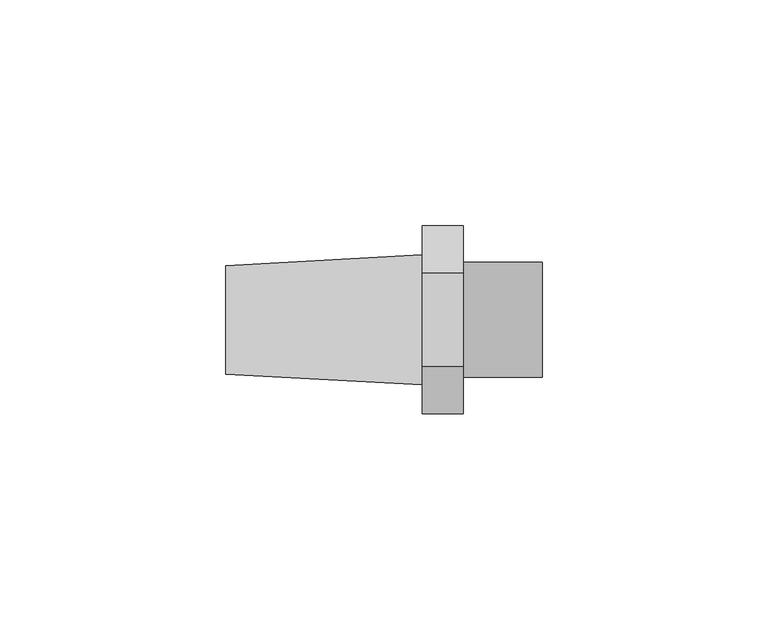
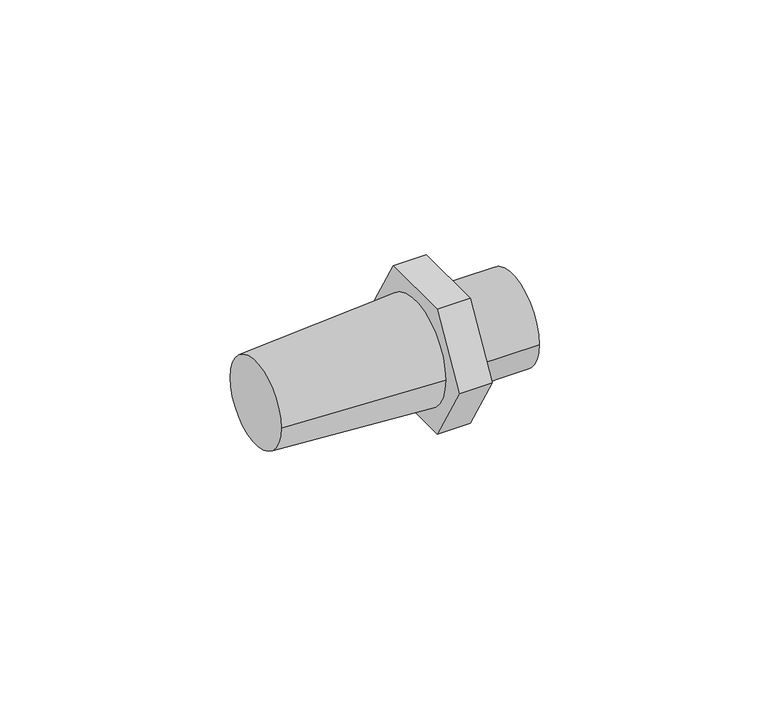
"""IFC4 building model written with IfcOpenShell, lengths in millimetres: pipe fitting geometry, 01011013 : Douilles coniques."""

from ifc_helpers import new_model, si_unit, frame, origin, place, context, project, spatial, polyline, circle_curve, source, transform, mapped, element, save
from ifc_brep_helpers import plane_surface, cylinder_surface, revolved_surface, advanced_brep


def pipe_fitting_19ab0d6a(model_context):
    return source(origin(), model_context, "Body", "AdvancedBrep", [
        advanced_brep(
        [(-35.0, 12.0, 0.0), (-35.0, -12.0, 0.0), (8.5, 14.4, 0.0), (8.5, -14.4, 0.0)],
        [
            (0, 1, circle_curve(frame((-35.0, 0.0, 0.0), z_axis=(-1.0, 0.0, 0.0), x_axis=(0.0, 1.0, 0.0)), 12.0)),
            (1, 0, circle_curve(frame((-35.0, 0.0, 0.0), z_axis=(-1.0, 0.0, 0.0), x_axis=(0.0, -1.0, 0.0)), 12.0)),
            (2, 3, circle_curve(frame((8.5, 0.0, 0.0), z_axis=(1.0, 0.0, 0.0), x_axis=(0.0, -1.0, 0.0)), 14.4)),
            (3, 2, circle_curve(frame((8.5, 0.0, 0.0), z_axis=(1.0, 0.0, 0.0), x_axis=(0.0, 1.0, 0.0)), 14.4)),
            (3, 1),
            (0, 2),
        ],
        [
            plane_surface(frame((-35.0, 0.0, 0.0), z_axis=(-1.0, 0.0, 0.0), x_axis=(0.0, 0.0, -1.0))),
            plane_surface(frame((8.5, 0.0, 0.0), z_axis=(1.0, 0.0, 0.0), x_axis=(0.0, 0.0, -1.0))),
            revolved_surface(polyline([(-35.0, 12.0, 0.0), (8.5, 14.4, 0.0)]), (-252.5, 0.0, 0.0), (1.0, 0.0, 0.0)),
            revolved_surface(polyline([(-35.0, -12.0, 0.0), (8.5, -14.4, 0.0)]), (-252.5, 0.0, 0.0), (1.0, 0.0, 0.0)),
        ],
        [
            (0, [[1, 2]]),
            (1, [[3, 4]]),
            (2, [[-4, 5, -1, 6]]),
            (3, [[-3, -6, -2, -5]]),
        ],
    ),
        advanced_brep(
        [(17.5, -10.3923048, 18.0), (17.5, -20.7846097, 0.0), (17.5, -10.3923048, -18.0), (17.5, 10.3923048, -18.0), (17.5, 20.7846097, 0.0), (17.5, 10.3923048, 18.0), (17.5, -12.7, 0.0), (17.5, 12.7, 0.0), (8.5, -10.3923048, 18.0), (8.5, 10.3923048, 18.0), (8.5, 20.7846097, 0.0), (8.5, 10.3923048, -18.0), (8.5, -10.3923048, -18.0), (8.5, -20.7846097, 0.0), (35.0, -12.7, 0.0), (35.0, 12.7, 0.0)],
        [
            (0, 1),
            (1, 2),
            (2, 3),
            (3, 4),
            (4, 5),
            (5, 0),
            (6, 7, circle_curve(frame((17.5, 0.0, 0.0), z_axis=(-1.0, 0.0, 0.0), x_axis=(0.0, 1.0, 0.0)), 12.7)),
            (7, 6, circle_curve(frame((17.5, 0.0, 0.0), z_axis=(-1.0, 0.0, 0.0), x_axis=(0.0, 1.0, 0.0)), 12.7)),
            (8, 9),
            (9, 10),
            (10, 11),
            (11, 12),
            (12, 13),
            (13, 8),
            (0, 8),
            (13, 1),
            (12, 2),
            (11, 3),
            (10, 4),
            (9, 5),
            (14, 15, circle_curve(frame((35.0, 0.0, 0.0), z_axis=(1.0, 0.0, 0.0), x_axis=(0.0, 1.0, 0.0)), 12.7)),
            (15, 14, circle_curve(frame((35.0, 0.0, 0.0), z_axis=(1.0, 0.0, 0.0), x_axis=(0.0, 1.0, 0.0)), 12.7)),
            (15, 7),
            (6, 14),
        ],
        [
            plane_surface(frame((17.5, -10.3923048, 18.0), z_axis=(1.0, 0.0, 0.0), x_axis=(0.0, -0.5000000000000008, -0.8660254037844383))),
            plane_surface(frame((8.5, -10.3923048, 18.0), z_axis=(-1.0, 0.0, 0.0), x_axis=(0.0, 0.5000000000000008, 0.8660254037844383))),
            plane_surface(frame((17.5, -10.3923048, 18.0), z_axis=(0.0, -0.8660254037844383, 0.5000000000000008), x_axis=(-1.0, 0.0, 0.0))),
            plane_surface(frame((17.5, -20.7846097, 0.0), z_axis=(0.0, -0.866025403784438, -0.500000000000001), x_axis=(-1.0, 0.0, 0.0))),
            plane_surface(frame((17.5, -10.3923048, -18.0), z_axis=(0.0, 0.0, -1.0), x_axis=(-1.0, 0.0, 0.0))),
            plane_surface(frame((17.5, 10.3923048, -18.0), z_axis=(0.0, 0.8660254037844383, -0.5000000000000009), x_axis=(-1.0, 0.0, 0.0))),
            plane_surface(frame((17.5, 20.7846097, 0.0), z_axis=(0.0, 0.8660254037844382, 0.500000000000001), x_axis=(-1.0, 0.0, 0.0))),
            plane_surface(frame((17.5, 10.3923048, 18.0), z_axis=(0.0, 0.0, 1.0), x_axis=(-1.0, 0.0, 0.0))),
            plane_surface(frame((35.0, 0.0, 0.0), z_axis=(1.0, 0.0, 0.0), x_axis=(0.0, 0.0, 1.0))),
            cylinder_surface(frame((17.5, 0.0, 0.0), z_axis=(-1.0, 0.0, 0.0), x_axis=(0.0, 1.0, 0.0)), 12.7),
        ],
        [
            (0, [[1, 2, 3, 4, 5, 6], [7, 8]]),
            (1, [[9, 10, 11, 12, 13, 14]]),
            (2, [[-1, 15, -14, 16]]),
            (3, [[-2, -16, -13, 17]]),
            (4, [[-3, -17, -12, 18]]),
            (5, [[-4, -18, -11, 19]]),
            (6, [[-5, -19, -10, 20]]),
            (7, [[-6, -20, -9, -15]]),
            (8, [[21, 22]]),
            (9, [[-22, 23, -7, 24]]),
            (9, [[-21, -24, -8, -23]]),
        ],
    ),
    ])


if __name__ == "__main__":
    model = new_model("IFC4")
    model_context = context("Model", 3, world=origin())
    ifc_project = project(units=[si_unit("LENGTHUNIT", "METRE", prefix="MILLI")], contexts=[model_context])
    site = spatial("IfcSite", under=ifc_project)
    building = spatial("IfcBuilding", under=site)
    placement = place(None, origin())
    pipe_fitting_shape = pipe_fitting_19ab0d6a(model_context)
    element("IfcPipeFitting", 1, ObjectType="01011013 : Douilles coniques", at=placement, inside=building, context=model_context, shape_type="MappedRepresentation", body=[
        mapped(pipe_fitting_shape, transform((0.0, 0.0, 0.0), x_axis=(1.0, 0.0, 0.0), y_axis=(0.0, 1.0, 0.0), z_axis=(0.0, 0.0, 1.0))),
    ])
    save(model, "model.ifc")
